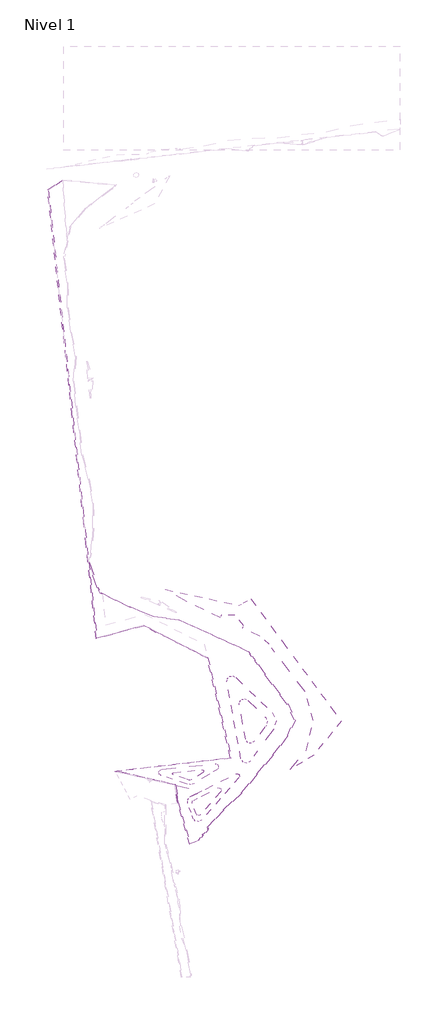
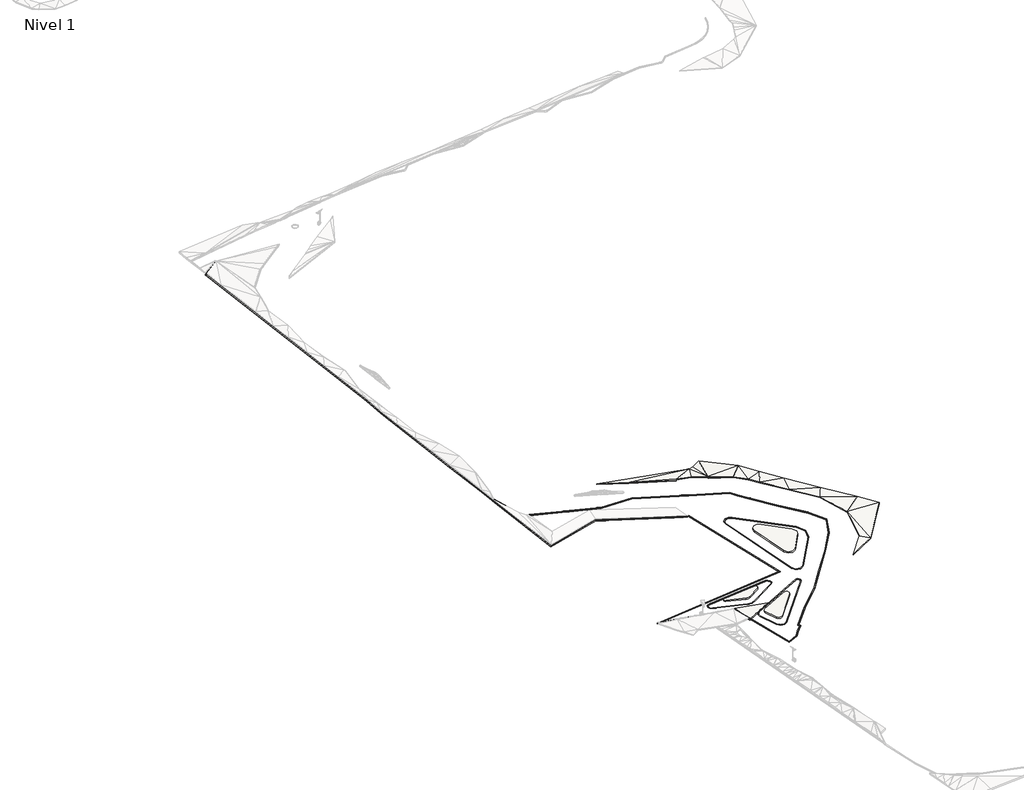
# One storey, part 12 of 45: 10 slabs.
"""IFC4 building model written with IfcOpenShell, lengths in millimetres."""

from ifc_helpers import new_model, si_unit, point, frame, frame_2d, origin, place, context, project, spatial, polyline, circle_curve, trimmed, segment, composite_curve, outline, extrude, faceted_brep, element, save
from ifc_brep_helpers import plane_surface, spline_surface, advanced_brep

model = new_model("IFC4")

# Units and contexts
model_context = context("Model", 3, world=origin())
ifc_project = project(units=[si_unit("LENGTHUNIT", "METRE", prefix="MILLI")], contexts=[model_context])

# Site, building, storey
site = spatial("IfcSite", under=ifc_project)
building = spatial("IfcBuilding", under=site)
storey = spatial("IfcBuildingStorey", under=building, Name="Nivel 1", Elevation=0.0)

# Slabs
placement = place(None, origin())
element("IfcSlab", 1, ObjectType="Tierra de Chacra (50cm)", at=placement, inside=storey, context=model_context, shape_type="SweptSolid", body=[
    extrude(outline(polyline([(-259692.577683, -353123.0198326), (-249094.4282619, -355565.7512298), (-258499.0161399, -360309.9056067), (-259692.577683, -353123.0198326)])), frame((0.0, 0.0, 3000.0), z_axis=(0.0, 0.0, 1.0), x_axis=(1.0, 0.0, 0.0)), (0.0, 0.0, 1.0), 500.0),
])
element("IfcSlab", 2, ObjectType="Tierra de Chacra (50cm)", at=placement, inside=storey, context=model_context, shape_type="SweptSolid", body=[
    extrude(outline(composite_curve([segment(polyline([(-248578.6758198, -348226.8111141), (-253111.6375509, -350972.4073295)]), True, "CONTINUOUS"), segment(trimmed(circle_curve(frame_2d((-253888.7478534, -349689.4032074)), 1499.9999999), [point((-253111.6375509, -350972.4073295))], [point((-254361.8763218, -351112.8319735))], False, "CARTESIAN"), True, "CONTINUOUS"), segment(polyline([(-254361.8763218, -351112.8319735), (-260630.1092416, -349029.3561358)]), True, "CONTINUOUS"), segment(trimmed(circle_curve(frame_2d((-260472.3997523, -348554.8798809)), 499.9999994), [point((-260630.1092416, -349029.3561358))], [point((-260525.1654587, -348057.6718966))], False, "CARTESIAN"), True, "CONTINUOUS"), segment(polyline([(-260525.1654587, -348057.6718966), (-249046.3795313, -346839.4970742)]), True, "CONTINUOUS"), segment(trimmed(circle_curve(frame_2d((-248967.2309715, -347585.3090523)), 750.0000008), [point((-249046.3795313, -346839.4970742))], [point((-248578.6758198, -348226.8111141))], False, "CARTESIAN"), True, "CONTINUOUS")], self_intersect=False)), frame((0.0, 0.0, 4000.0), z_axis=(0.0, 0.0, 1.0), x_axis=(1.0, 0.0, 0.0)), (0.0, 0.0, 1.0), 500.0),
])
element("IfcSlab", 3, ObjectType="Tierra de Chacra (50cm)", at=placement, inside=storey, context=model_context, shape_type="SweptSolid", body=[
    extrude(outline(composite_curve([segment(polyline([(-252384.0627277, -359241.2677938), (-242629.6442201, -354320.6409844)]), True, "CONTINUOUS"), segment(trimmed(circle_curve(frame_2d((-242179.2542069, -355213.4729041)), 1000.0000005), [point((-242629.6442201, -354320.6409844))], [point((-241426.8400401, -355872.1632127))], False, "CARTESIAN"), True, "CONTINUOUS"), segment(polyline([(-241426.8400401, -355872.1632127), (-249572.6059289, -365176.9754655)]), True, "CONTINUOUS"), segment(trimmed(circle_curve(frame_2d((-250325.0200961, -364518.2851566)), 1000.000001), [point((-249572.6059289, -365176.9754655))], [point((-251263.8190149, -364862.7508181))], False, "CARTESIAN"), True, "CONTINUOUS"), segment(polyline([(-251263.8190149, -364862.7508181), (-252872.4716331, -360478.5653754)]), True, "CONTINUOUS"), segment(trimmed(circle_curve(frame_2d((-251933.6727143, -360134.0997139)), 1000.0000009), [point((-252872.4716331, -360478.5653754))], [point((-252384.0627277, -359241.2677938))], False, "CARTESIAN"), True, "CONTINUOUS")], self_intersect=False)), frame((0.0, 0.0, 4000.0), z_axis=(0.0, 0.0, 1.0), x_axis=(1.0, 0.0, 0.0)), (0.0, 0.0, 1.0), 500.0),
])
element("IfcSlab", 4, ObjectType="Tierra de Chacra (50cm)", at=placement, inside=storey, context=model_context, shape_type="SweptSolid", body=[
    extrude(outline(composite_curve([segment(polyline([(-230498.6935688, -318672.2888117), (-223186.6458955, -325686.1894055)]), True, "CONTINUOUS"), segment(trimmed(circle_curve(frame_2d((-224917.2479002, -327490.3558878)), 2499.9999989), [point((-223186.6458955, -325686.1894055))], [point((-222903.158482, -328971.383845))], False, "CARTESIAN"), True, "CONTINUOUS"), segment(polyline([(-222903.158482, -328971.383845), (-227676.4396868, -335462.6962597)]), True, "CONTINUOUS"), segment(trimmed(circle_curve(frame_2d((-229287.7112218, -334277.8738937)), 1999.9999996), [point((-227676.4396868, -335462.6962597))], [point((-231254.9477111, -334638.4021085))], False, "CARTESIAN"), True, "CONTINUOUS"), segment(polyline([(-231254.9477111, -334638.4021085), (-233850.4116633, -320476.1502133)]), True, "CONTINUOUS"), segment(trimmed(circle_curve(frame_2d((-231883.1751734, -320115.6219984)), 2000.0000002), [point((-233850.4116633, -320476.1502133))], [point((-230498.6935688, -318672.2888117))], False, "CARTESIAN"), True, "CONTINUOUS")], self_intersect=False)), frame((0.0, 0.0, 4000.0), z_axis=(0.0, 0.0, 1.0), x_axis=(1.0, 0.0, 0.0)), (0.0, 0.0, 1.0), 500.0),
])
element("IfcSlab", 5, ObjectType="Tierra de Chacra (10cm)", at=placement, inside=storey, context=model_context, shape_type="SweptSolid", body=[
    extrude(outline(composite_curve([segment(polyline([(-254929.6304857, -352820.9464925), (-265578.8176414, -349281.3007257)]), True, "CONTINUOUS"), segment(trimmed(circle_curve(frame_2d((-265168.7729687, -348047.6624608)), 1300.0000008), [point((-265578.8176414, -349281.3007257))], [point((-265305.9638054, -346754.9216994))], False, "CARTESIAN"), True, "CONTINUOUS"), segment(polyline([(-265305.9638054, -346754.9216994), (-243662.8961745, -344458.0725204)]), True, "CONTINUOUS"), segment(trimmed(circle_curve(frame_2d((-243525.7053377, -345750.8132825)), 1300.0000015), [point((-243662.8961745, -344458.0725204))], [point((-242852.2097414, -346862.7501897))], False, "CARTESIAN"), True, "CONTINUOUS"), segment(polyline([(-242852.2097414, -346862.7501897), (-252179.1051901, -352512.0122756)]), True, "CONTINUOUS"), segment(trimmed(circle_curve(frame_2d((-253888.7478556, -349689.4032068)), 3299.9999999), [point((-252179.1051901, -352512.0122756))], [point((-254929.6304857, -352820.9464925))], False, "CARTESIAN"), True, "CONTINUOUS")], self_intersect=False), holes=[composite_curve([segment(trimmed(circle_curve(frame_2d((-265168.7729687, -348047.6624608)), 1000.0000008), [point((-265274.3043816, -347053.2464903))], [point((-265484.1919478, -348996.6149724))], True, "CARTESIAN"), True, "CONTINUOUS"), segment(polyline([(-265484.1919478, -348996.6149724), (-254835.0047921, -352536.2607392)]), True, "CONTINUOUS"), segment(trimmed(circle_curve(frame_2d((-253888.7478556, -349689.4032068)), 2999.9999999), [point((-254835.0047921, -352536.2607392))], [point((-252334.5272506, -352255.4114512))], True, "CARTESIAN"), True, "CONTINUOUS"), segment(polyline([(-252334.5272506, -352255.4114512), (-243007.6318019, -346606.1493652)]), True, "CONTINUOUS"), segment(trimmed(circle_curve(frame_2d((-243525.7053377, -345750.8132825)), 1000.0000015), [point((-243007.6318019, -346606.1493652))], [point((-243631.2367506, -344756.3973113))], True, "CARTESIAN"), True, "CONTINUOUS"), segment(polyline([(-243631.2367506, -344756.3973113), (-265274.3043816, -347053.2464903)]), True, "CONTINUOUS")], self_intersect=False)]), frame((0.0, 0.0, 3200.0), z_axis=(0.0, 0.0, 1.0), x_axis=(1.0, 0.0, 0.0)), (0.0, 0.0, 1.0), 100.0),
])
element("IfcSlab", 6, ObjectType="Tierra de Chacra (10cm)", at=placement, inside=storey, context=model_context, shape_type="SweptSolid", body=[
    extrude(outline(composite_curve([segment(polyline([(-233981.7539277, -350100.424637), (-249106.6452507, -367377.409517)]), True, "CONTINUOUS"), segment(trimmed(circle_curve(frame_2d((-250611.4735832, -366060.0289008)), 1999.9999995), [point((-249106.6452507, -367377.409517))], [point((-252489.0714186, -366748.9602229))], False, "CARTESIAN"), True, "CONTINUOUS"), segment(polyline([(-252489.0714186, -366748.9602229), (-254807.7516225, -360429.6816648)]), True, "CONTINUOUS"), segment(trimmed(circle_curve(frame_2d((-252930.1537854, -359740.7503421)), 2000.0000012), [point((-254807.7516225, -360429.6816648))], [point((-253830.9338122, -357955.0865024))], False, "CARTESIAN"), True, "CONTINUOUS"), segment(polyline([(-253830.9338122, -357955.0865024), (-235184.5581079, -348548.9024086)]), True, "CONTINUOUS"), segment(trimmed(circle_curve(frame_2d((-234734.1680945, -349441.7343283)), 1000.0000006), [point((-235184.5581079, -348548.9024086))], [point((-233981.7539277, -350100.424637))], False, "CARTESIAN"), True, "CONTINUOUS")], self_intersect=False), holes=[composite_curve([segment(trimmed(circle_curve(frame_2d((-250611.4735832, -366060.0289008)), 1699.9999995), [point((-252207.4317432, -366645.6205246))], [point((-249332.3695007, -367179.8024245))], True, "CARTESIAN"), True, "CONTINUOUS"), segment(polyline([(-249332.3695007, -367179.8024245), (-234207.4781776, -349902.8175445)]), True, "CONTINUOUS"), segment(trimmed(circle_curve(frame_2d((-234734.1680945, -349441.7343283)), 700.0000006), [point((-234207.4781776, -349902.8175445))], [point((-235049.4411039, -348816.7519843))], True, "CARTESIAN"), True, "CONTINUOUS"), segment(polyline([(-235049.4411039, -348816.7519843), (-253695.8168082, -358222.9360782)]), True, "CONTINUOUS"), segment(trimmed(circle_curve(frame_2d((-252930.1537854, -359740.7503421)), 1700.0000012), [point((-253695.8168082, -358222.9360782))], [point((-254526.111947, -360326.3419664))], True, "CARTESIAN"), True, "CONTINUOUS"), segment(polyline([(-254526.111947, -360326.3419664), (-252207.4317432, -366645.6205246)]), True, "CONTINUOUS")], self_intersect=False)]), frame((0.0, 0.0, 3200.0), z_axis=(0.0, 0.0, 1.0), x_axis=(1.0, 0.0, 0.0)), (0.0, 0.0, 1.0), 100.0),
])
element("IfcSlab", 7, ObjectType="Tierra de Chacra (10cm)", at=placement, inside=storey, context=model_context, shape_type="SweptSolid", body=[
    extrude(outline(composite_curve([segment(polyline([(-219880.7574034, -330431.5952869), (-229407.6767067, -343387.5069313)]), True, "CONTINUOUS"), segment(trimmed(circle_curve(frame_2d((-231099.5118191, -342143.4434465)), 2100.0000004), [point((-229407.6767067, -343387.5069313))], [point((-233165.1101336, -342521.9980722))], False, "CARTESIAN"), True, "CONTINUOUS"), segment(polyline([(-233165.1101336, -342521.9980722), (-238881.9202386, -311327.9972224)]), True, "CONTINUOUS"), segment(trimmed(circle_curve(frame_2d((-236816.3219238, -310949.4425966)), 2100.0000007), [point((-238881.9202386, -311327.9972224))], [point((-235362.6162389, -309433.9427501))], False, "CARTESIAN"), True, "CONTINUOUS"), segment(polyline([(-235362.6162389, -309433.9427501), (-220459.0717279, -323729.7986233)]), True, "CONTINUOUS"), segment(trimmed(circle_curve(frame_2d((-223989.4998205, -327410.2982512)), 5100.0000027), [point((-220459.0717279, -323729.7986233))], [point((-219880.7574034, -330431.5952869))], False, "CARTESIAN"), True, "CONTINUOUS")], self_intersect=False), holes=[composite_curve([segment(trimmed(circle_curve(frame_2d((-231099.5118191, -342143.4434465)), 1800.0000004), [point((-232870.0246601, -342467.91884))], [point((-229649.367437, -343209.7835764))], True, "CARTESIAN"), True, "CONTINUOUS"), segment(polyline([(-229649.367437, -343209.7835764), (-220122.4481337, -330253.8719319)]), True, "CONTINUOUS"), segment(trimmed(circle_curve(frame_2d((-223989.4998205, -327410.2982512)), 4800.0000027), [point((-220122.4481337, -330253.8719319))], [point((-220666.7439685, -323946.2986013))], True, "CARTESIAN"), True, "CONTINUOUS"), segment(polyline([(-220666.7439685, -323946.2986013), (-235570.2884795, -309650.4427281)]), True, "CONTINUOUS"), segment(trimmed(circle_curve(frame_2d((-236816.3219238, -310949.4425966)), 1800.0000007), [point((-235570.2884795, -309650.4427281))], [point((-238586.8347652, -311273.9179901))], True, "CARTESIAN"), True, "CONTINUOUS"), segment(polyline([(-238586.8347652, -311273.9179901), (-232870.0246601, -342467.91884)]), True, "CONTINUOUS")], self_intersect=False)]), frame((0.0, 0.0, 3200.0), z_axis=(0.0, 0.0, 1.0), x_axis=(1.0, 0.0, 0.0)), (0.0, 0.0, 1.0), 100.0),
])
element("IfcSlab", 8, ObjectType="Tierra de Chacra (20cm)", at=placement, inside=storey, context=model_context, shape_type="Brep", body=[
    faceted_brep([(-259746.1512588, -352802.8063396, 3000.0), (-259746.1512588, -352802.8063396, 3200.0), (-259692.577683, -353123.0198326, 3200.0), (-259692.577683, -353123.0198326, 3000.0), (-258499.0161403, -360309.9056044, 3778.4), (-258499.0161403, -360309.9056044, 3578.4), (-253657.0191389, -376813.5731475, 3294.0), (-253657.0191389, -376813.5731475, 3094.0), (-250208.8766051, -375269.3430892, 3362.5), (-250208.8766051, -375269.3430892, 3162.5), (-248782.9831902, -373365.9486966, 3331.1), (-248782.9831902, -373365.9486966, 3131.1), (-246651.9191166, -371125.6633544, 3415.8), (-246651.9191166, -371125.6633544, 3215.8), (-246802.1268005, -370335.2235145, 3209.4), (-246802.1268005, -370335.2235145, 3009.4), (-240354.1564966, -363153.9933159, 3367.7), (-240354.1564966, -363153.9933159, 3167.7), (-232965.2577297, -356282.0853069, 3837.6), (-232965.2577297, -356282.0853069, 3637.6), (-226714.7266074, -348497.8310062, 3820.7), (-226714.7266074, -348497.8310062, 3620.7), (-220206.5208136, -340908.4377078, 4286.4), (-220206.5208136, -340908.4377078, 4086.4), (-214362.1469771, -333010.3056314, 4508.2), (-214362.1469771, -333010.3056314, 4308.2), (-214266.8789963, -332935.6770266, 4528.1), (-214266.8789963, -332935.6770266, 4328.1), (-211477.3616369, -326738.0981823, 4717.3), (-211477.3616369, -326738.0981823, 4517.3), (-214293.8176319, -320568.5011429, 4435.2), (-214293.8176319, -320568.5011429, 4235.2), (-220499.7755484, -312418.6849123, 4383.0), (-220499.7755484, -312418.6849123, 4183.0), (-226447.564629, -304374.0181582, 4380.9), (-226447.564629, -304374.0181582, 4180.9), (-228745.8067017, -301153.9581785, 4402.2), (-228745.8067017, -301153.9581785, 4202.2), (-230347.6284549, -299026.6455088, 4514.0), (-230347.6284549, -299026.6455088, 4314.0), (-242008.4949011, -293712.977066, 4535.4), (-242008.4949011, -293712.977066, 4335.4), (-258313.2475485, -286283.1647091, 4565.2), (-258313.2475485, -286283.1647091, 4365.2), (-268621.0778581, -284921.3708812, 3750.0), (-268621.0778581, -284921.3708812, 3550.0), (-277925.6919369, -281145.5380158, 3446.0), (-277925.6919369, -281145.5380158, 3246.0), (-278554.7196336, -280947.4748405, 3399.7953606), (-278554.7196336, -280947.4748405, 3199.7953606), (-289423.7156436, -275642.0907003, 2580.0), (-289423.7156436, -275642.0907003, 2380.0), (-290159.2414777, -275283.0651658, 2573.6411786), (-290159.2414777, -275283.0651658, 2373.6411786), (-291491.3566625, -273118.4389996, 2470.7), (-291491.3566625, -273118.4389996, 2270.7), (-294891.1329312, -262791.0925905, 2700.0), (-294891.1329312, -262791.0925905, 2500.0), (-294610.7649881, -262683.3469266, 2700.0), (-294610.7649881, -262683.3469266, 2500.0), (-291217.409206, -272991.1901145, 2571.1), (-291217.409206, -272991.1901145, 2371.1), (-289949.3872363, -275051.6677419, 2540.6), (-289949.3872363, -275051.6677419, 2340.6), (-289292.1197357, -275372.4937474, 2595.3), (-278423.1237256, -280677.8778875, 3500.4046394), (-278423.1237256, -280677.8778875, 3300.4046394), (-289292.1197357, -275372.4937474, 2395.3), (-277812.8856781, -280867.5546566, 3523.8), (-277812.8856781, -280867.5546566, 3323.8), (-268543.7871981, -284628.9752139, 3608.3), (-268543.7871981, -284628.9752139, 3408.3), (-258229.5802029, -285991.611482, 4565.2), (-258229.5802029, -285991.611482, 4365.2), (-241884.0965153, -293439.9843155, 4535.4), (-230153.8403289, -298785.2725419, 4514.0), (-230153.8403289, -298785.2725419, 4314.0), (-241884.0965153, -293439.9843155, 4335.4), (-228503.8465465, -300976.5604748, 4402.2), (-228503.8465465, -300976.5604748, 4202.2), (-226204.841247, -304197.6898102, 4380.9), (-226204.841247, -304197.6898102, 4180.9), (-220259.8105631, -312238.625701, 4383.0), (-220259.8105631, -312238.625701, 4183.0), (-214200.8315574, -320195.4256198, 4432.4), (-214200.8315574, -320195.4256198, 4232.4), (-214044.2912502, -320392.6982576, 4435.2), (-214044.2912502, -320392.6982576, 4235.2), (-211198.3172974, -326626.9559575, 4709.1), (-211198.3172974, -326626.9559575, 4509.1), (-211175.9375507, -326799.3374182, 4717.3), (-211175.9375507, -326799.3374182, 4517.3), (-214023.6637944, -333126.2411973, 4528.1), (-214023.6637944, -333126.2411973, 4328.1), (-214145.1594699, -333221.4153869, 4508.2), (-214145.1594699, -333221.4153869, 4308.2), (-219971.7741245, -341095.5475675, 4286.4), (-219971.7741245, -341095.5475675, 4086.4), (-226483.8395708, -348689.4417102, 3820.7), (-226483.8395708, -348689.4417102, 3620.7), (-232744.9862324, -356486.9163366, 3837.6), (-232744.9862324, -356486.9163366, 3637.6), (-240139.9584034, -363364.4728022, 3367.7), (-240139.9584034, -363364.4728022, 3167.7), (-246479.6720821, -370425.1354874, 3209.4), (-246479.6720821, -370425.1354874, 3009.4), (-246328.4540458, -371220.8921178, 3415.8), (-246328.4540458, -371220.8921178, 3215.8), (-248553.4600246, -373559.9340745, 3331.1), (-248553.4600246, -373559.9340745, 3131.1), (-250015.355237, -375511.3864908, 3362.5), (-250015.355237, -375511.3864908, 3162.5), (-253848.115409, -377227.8652633, 3294.0), (-253848.115409, -377227.8652633, 3094.0), (-258771.3549499, -360447.2872096, 3778.4), (-258771.3549499, -360447.2872096, 3578.4), (-260008.9471493, -353050.100909, 3200.0), (-260008.9471493, -353050.100909, 3000.0), (-284369.7433372, -347435.263894, 3082.0), (-284369.7433372, -347435.263894, 2882.0), (-282609.4646829, -347533.1190316, 3200.0), (-282609.4646829, -347533.1190316, 3000.0)], [[[0, 1, 2, 3]], [[3, 2, 4, 5]], [[5, 4, 6, 7]], [[7, 6, 8, 9]], [[9, 8, 10, 11]], [[11, 10, 12, 13]], [[13, 12, 14, 15]], [[15, 14, 16, 17]], [[17, 16, 18, 19]], [[19, 18, 20, 21]], [[21, 20, 22, 23]], [[23, 22, 24, 25]], [[25, 24, 26, 27]], [[27, 26, 28, 29]], [[29, 28, 30, 31]], [[31, 30, 32, 33]], [[33, 32, 34, 35]], [[35, 34, 36, 37]], [[37, 36, 38, 39]], [[39, 38, 40, 41]], [[41, 40, 42, 43]], [[43, 42, 44, 45]], [[45, 44, 46, 47]], [[47, 46, 48, 49]], [[49, 48, 50, 51]], [[51, 50, 52, 53]], [[53, 52, 54, 55]], [[55, 54, 56, 57]], [[57, 56, 58, 59]], [[59, 58, 60, 61]], [[61, 60, 62, 63]], [[63, 62, 64, 65, 66, 67]], [[66, 65, 68, 69]], [[69, 68, 70, 71]], [[71, 70, 72, 73]], [[73, 72, 74, 75, 76, 77]], [[76, 75, 78, 79]], [[79, 78, 80, 81]], [[81, 80, 82, 83]], [[83, 82, 84, 85]], [[85, 84, 86, 87]], [[87, 86, 88, 89]], [[89, 88, 90, 91]], [[91, 90, 92, 93]], [[93, 92, 94, 95]], [[95, 94, 96, 97]], [[97, 96, 98, 99]], [[99, 98, 100, 101]], [[101, 100, 102, 103]], [[103, 102, 104, 105]], [[105, 104, 106, 107]], [[107, 106, 108, 109]], [[109, 108, 110, 111]], [[111, 110, 112, 113]], [[113, 112, 114, 115]], [[115, 114, 116, 117]], [[117, 116, 118, 119]], [[119, 118, 120, 121]], [[121, 120, 1, 0]], [[120, 118, 116]], [[121, 117, 119]], [[104, 102, 16]], [[106, 104, 12]], [[108, 106, 12]], [[105, 17, 103]], [[107, 13, 105]], [[109, 13, 107]], [[102, 100, 18]], [[104, 16, 14]], [[104, 14, 12]], [[103, 19, 101]], [[105, 15, 17]], [[105, 13, 15]], [[100, 98, 18]], [[102, 18, 16]], [[101, 19, 99]], [[103, 17, 19]], [[98, 96, 22]], [[98, 20, 18]], [[99, 23, 97]], [[99, 19, 21]], [[96, 94, 22]], [[98, 22, 20]], [[97, 23, 95]], [[99, 21, 23]], [[94, 92, 26]], [[95, 27, 93]], [[92, 90, 26]], [[94, 26, 24]], [[94, 24, 22]], [[93, 27, 91]], [[95, 25, 27]], [[95, 23, 25]], [[90, 88, 28]], [[91, 29, 89]], [[120, 116, 2, 1]], [[116, 114, 2]], [[121, 0, 3, 117]], [[117, 3, 115]], [[114, 4, 2]], [[114, 112, 6]], [[115, 3, 5]], [[115, 7, 113]], [[114, 6, 4]], [[112, 110, 6]], [[115, 5, 7]], [[113, 7, 111]], [[110, 108, 8]], [[111, 9, 109]], [[110, 8, 6]], [[108, 12, 10]], [[111, 7, 9]], [[109, 11, 13]], [[108, 10, 8]], [[109, 9, 11]], [[90, 28, 26]], [[91, 27, 29]], [[88, 86, 30]], [[89, 31, 87]], [[86, 84, 30]], [[88, 30, 28]], [[87, 31, 85]], [[89, 29, 31]], [[84, 82, 32]], [[85, 33, 83]], [[84, 32, 30]], [[85, 31, 33]], [[82, 80, 32]], [[83, 33, 81]], [[80, 78, 36]], [[81, 37, 79]], [[80, 34, 32]], [[81, 33, 35]], [[78, 75, 38]], [[80, 36, 34]], [[79, 39, 76]], [[81, 35, 37]], [[78, 38, 36]], [[79, 37, 39]], [[72, 70, 42]], [[73, 43, 71]], [[72, 42, 74]], [[42, 40, 74]], [[40, 38, 74]], [[75, 74, 38]], [[73, 77, 43]], [[43, 77, 41]], [[41, 77, 39]], [[76, 39, 77]], [[70, 68, 46]], [[71, 47, 69]], [[70, 44, 42]], [[71, 43, 45]], [[68, 65, 46]], [[70, 46, 44]], [[69, 47, 66]], [[71, 45, 47]], [[65, 48, 46]], [[66, 47, 49]], [[65, 50, 48]], [[66, 49, 51]], [[62, 60, 54]], [[63, 55, 61]], [[62, 52, 50]], [[63, 51, 53]], [[62, 54, 52]], [[63, 53, 55]], [[60, 58, 56]], [[61, 57, 59]], [[60, 56, 54]], [[61, 55, 57]], [[62, 50, 64]], [[65, 64, 50]], [[63, 67, 51]], [[66, 51, 67]]]),
])
element("IfcSlab", 9, ObjectType="Tierra de Chacra (20cm)", at=placement, inside=storey, context=model_context, shape_type="AdvancedBrep", body=[
    advanced_brep(
    [(-284369.7433336, -347435.2638942, 2882.0), (-284369.7433336, -347435.2638942, 3082.0), (-237423.5279953, -341990.4769374, 3200.0), (-237423.5279953, -341990.4769374, 3000.0), (-246819.2067484, -301717.9890568, 3200.0), (-246819.2067484, -301717.9890568, 3000.0), (-272626.1158861, -288655.0708706, 2700.0), (-272626.1158861, -288655.0708706, 2500.0), (-291830.3998296, -293796.536123, 2500.0), (-291830.3998296, -293796.536123, 2300.0), (-295189.3841817, -262823.4374745, 2501.5), (-295206.1017953, -262669.2848376, 2500.0), (-295826.5759596, -256947.910313, 2500.0), (-297636.4115024, -240259.4685323, 2500.0), (-301548.2943398, -204188.1087627, 2500.0), (-302369.2965748, -196617.6706332, 3000.0), (-311569.6170026, -111781.7790855, 3000.0), (-311569.6170026, -111781.7790855, 2800.0), (-302369.2965748, -196617.6706332, 2800.0), (-301548.2943398, -204188.1087627, 2300.0), (-297636.4115024, -240259.4685323, 2300.0), (-295826.5759596, -256947.910313, 2300.0), (-295206.1017953, -262669.2848376, 2300.0), (-295189.3841817, -262823.4374745, 2301.5), (-305496.8398123, -107559.7208139, 3229.1235718), (-305496.8398123, -107559.7208139, 3029.1235718), (-305462.4622764, -107864.1947353, 3245.0764282), (-305462.4622764, -107864.1947353, 3045.0764282), (-305459.9050286, -107899.422368, 3245.8087454), (-305459.9050286, -107899.422368, 3045.8087454), (-311252.1681154, -111926.4550596, 3000.0), (-311252.1681154, -111926.4550596, 2800.0), (-302071.0453243, -196585.3257491, 3000.0), (-301250.0430893, -204155.7638787, 2500.0), (-297338.1602518, -240227.1236483, 2500.0), (-295528.3247091, -256915.565429, 2500.0), (-294907.8505448, -262636.9399536, 2500.0), (-294907.8505448, -262636.9399536, 2300.0), (-295528.3247091, -256915.565429, 2300.0), (-297338.1602518, -240227.1236483, 2300.0), (-301250.0430893, -204155.7638787, 2300.0), (-302071.0453243, -196585.3257491, 2800.0), (-294891.1329312, -262791.0925905, 2498.5), (-294891.1329312, -262791.0925905, 2298.5), (-291569.8850436, -293416.2243786, 2500.0), (-291569.8850436, -293416.2243786, 2300.0), (-272592.9362522, -288335.6224088, 2700.0), (-272592.9362522, -288335.6224088, 2500.0), (-246888.5866031, -301346.6271239, 2700.0), (-246888.5866031, -301346.6271239, 2500.0), (-246558.8506443, -301513.5325765, 3200.0), (-246558.8506443, -301513.5325765, 3000.0), (-237054.9838592, -342249.7444036, 3200.0), (-237054.9838592, -342249.7444036, 3000.0), (-282609.4646829, -347533.1190316, 3200.0), (-282609.4646829, -347533.1190316, 3000.0)],
    [
        (0, 1),
        (1, 2),
        (2, 3),
        (3, 0),
        (2, 4),
        (4, 5),
        (5, 3),
        (4, 6),
        (6, 7),
        (7, 5),
        (6, 8),
        (8, 9),
        (9, 7),
        (8, 10),
        (10, 11),
        (11, 12),
        (12, 13),
        (13, 14),
        (14, 15),
        (15, 16),
        (16, 17),
        (17, 18),
        (18, 19),
        (19, 20),
        (20, 21),
        (21, 22),
        (22, 23),
        (23, 9),
        (16, 24),
        (24, 25),
        (25, 17),
        (24, 26),
        (26, 27),
        (27, 25),
        (26, 28),
        (28, 29),
        (29, 27),
        (28, 30),
        (30, 31),
        (31, 29),
        (30, 32),
        (32, 33),
        (33, 34),
        (34, 35),
        (35, 36),
        (36, 37),
        (37, 38),
        (38, 39),
        (39, 40),
        (40, 41),
        (41, 31),
        (36, 42),
        (42, 43),
        (43, 37),
        (42, 44),
        (44, 45),
        (45, 43),
        (44, 46),
        (46, 47),
        (47, 45),
        (46, 48),
        (48, 49),
        (49, 47),
        (48, 50),
        (50, 51),
        (51, 49),
        (50, 52),
        (52, 53),
        (53, 51),
        (52, 54),
        (54, 55),
        (55, 53),
        (54, 1),
        (0, 55),
        (50, 4),
        (2, 54),
        (55, 3),
        (5, 51),
        (48, 4),
        (5, 49),
        (44, 6),
        (6, 46),
        (6, 48),
        (47, 7),
        (7, 45),
        (49, 7),
        (42, 10),
        (10, 44),
        (45, 23),
        (23, 43),
        (44, 8),
        (9, 45),
        (36, 11),
        (22, 37),
        (26, 30),
        (31, 27),
        (30, 16),
        (15, 32),
        (41, 18),
        (17, 31),
        (35, 12),
        (21, 38),
        (34, 13),
        (20, 39),
        (30, 24),
        (25, 31),
        (33, 14),
        (19, 40),
    ],
    [
        plane_surface(frame((-284369.7433336, -347435.2638942, 4050.0), z_axis=(-0.1152070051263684, 0.993341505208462, 0.0), x_axis=(0.0, 0.0, 1.0))),
        plane_surface(frame((-237423.5279953, -341990.4769374, 4050.0), z_axis=(-0.9738478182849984, -0.22720129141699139, 0.0), x_axis=(0.0, 0.0, 1.0))),
        plane_surface(frame((-246819.2067484, -301717.9890568, 4050.0), z_axis=(-0.4516186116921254, -0.8922110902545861, 0.0), x_axis=(0.0, 0.0, 1.0))),
        plane_surface(frame((-272626.1158861, -288655.0708706, 4050.0), z_axis=(0.2586169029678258, -0.965979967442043, 0.0), x_axis=(0.0, 0.0, 1.0))),
        plane_surface(frame((-291830.3998296, -293796.536123, 4050.0), z_axis=(-0.9941708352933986, -0.10781628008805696, 0.0), x_axis=(0.0, 0.0, 1.0))),
        plane_surface(frame((-311569.6170026, -111781.7790855, 4050.0), z_axis=(-0.5708382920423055, 0.8210625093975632, 0.0), x_axis=(0.0, 0.0, 1.0))),
        plane_surface(frame((-305496.8398123, -107559.7208139, 4050.0), z_axis=(0.9936861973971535, 0.1121951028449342, 0.0), x_axis=(0.0, 0.0, 1.0))),
        plane_surface(frame((-305462.4622764, -107864.1947353, 4050.0), z_axis=(0.9973755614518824, 0.07240158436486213, 0.0), x_axis=(0.0, 0.0, 1.0))),
        plane_surface(frame((-305459.9050286, -107899.422368, 4050.0), z_axis=(0.5708382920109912, -0.8210625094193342, 0.0), x_axis=(0.0, 0.0, 1.0))),
        plane_surface(frame((-311252.1681154, -111926.4550596, 4050.0), z_axis=(0.9941708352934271, 0.1078162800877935, 0.0), x_axis=(0.0, 0.0, 1.0))),
        plane_surface(frame((-294907.8505448, -262636.9399536, 4050.0), z_axis=(0.9941708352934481, 0.10781628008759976, 0.0), x_axis=(0.0, 0.0, 1.0))),
        plane_surface(frame((-294891.1329312, -262791.0925905, 4050.0), z_axis=(0.9941708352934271, 0.10781628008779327, 0.0), x_axis=(0.0, 0.0, 1.0))),
        plane_surface(frame((-291569.8850436, -293416.2243786, 4050.0), z_axis=(-0.2586169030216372, 0.9659799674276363, 0.0), x_axis=(0.0, 0.0, 1.0))),
        plane_surface(frame((-272592.9362522, -288335.6224088, 4050.0), z_axis=(0.4516186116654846, 0.8922110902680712, 0.0), x_axis=(0.0, 0.0, 1.0))),
        plane_surface(frame((-246888.5866031, -301346.6271239, 4050.0), z_axis=(0.45161861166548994, 0.8922110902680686, 0.0), x_axis=(0.0, 0.0, 1.0))),
        plane_surface(frame((-246558.8506443, -301513.5325765, 4050.0), z_axis=(0.9738478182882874, 0.2272012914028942, 0.0), x_axis=(0.0, 0.0, 1.0))),
        plane_surface(frame((-237054.9838592, -342249.7444036, 4050.0), z_axis=(0.1152070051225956, -0.9933415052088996, 0.0), x_axis=(0.0, 0.0, 1.0))),
        plane_surface(frame((-282609.4646829, -347533.1190316, 4050.0), z_axis=(-0.0555050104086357, -0.9984584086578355, 0.0), x_axis=(0.0, 0.0, 1.0))),
        plane_surface(frame((-250093.206786, -327000.9724012, 3200.0), z_axis=(0.0, 0.0, 1.0000000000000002), x_axis=(0.9933415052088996, 0.1152070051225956, 0.0))),
        plane_surface(frame((-250093.206786, -327000.9724012, 3000.0), z_axis=(0.0, 0.0, -1.0000000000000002), x_axis=(0.9933415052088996, 0.1152070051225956, 0.0))),
        plane_surface(frame((-268134.2453373, -345652.9532877, 3160.6666667), z_axis=(-0.04313676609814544, 0.35166896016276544, 0.9351300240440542), x_axis=(0.9925607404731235, 0.12175046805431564, 0.0))),
        plane_surface(frame((-268134.2453373, -345652.9532877, 2960.6666667), z_axis=(0.04313676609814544, -0.35166896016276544, -0.9351300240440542), x_axis=(0.9925607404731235, 0.12175046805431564, 0.0))),
        plane_surface(frame((-246755.5479986, -301526.0495857, 3033.3333333), z_axis=(-0.5131371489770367, 0.65343191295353, 0.5565222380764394), x_axis=(-0.5303283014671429, 0.26844110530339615, -0.8041711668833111))),
        plane_surface(frame((-246755.5479986, -301526.0495857, 2833.3333333), z_axis=(0.5131371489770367, -0.65343191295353, -0.5565222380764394), x_axis=(-0.5303283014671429, 0.26844110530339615, -0.8041711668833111))),
        plane_surface(frame((-278929.6457273, -290135.6392193, 2633.3333333), z_axis=(-0.010839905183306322, 0.0011258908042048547, 0.9999406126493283), x_axis=(-0.9659299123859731, -0.25860350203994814, -0.010180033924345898))),
        plane_surface(frame((-264035.8795805, -292779.1068011, 2700.0), z_axis=(0.0, 0.0, 1.0), x_axis=(-0.8922110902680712, 0.4516186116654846, 0.0))),
        plane_surface(frame((-255444.6364125, -297239.8956837, 2866.6666667), z_axis=(0.3784420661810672, 0.7674522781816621, 0.5174926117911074), x_axis=(-0.8968836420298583, 0.4422665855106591, 0.0))),
        plane_surface(frame((-278929.6457273, -290135.6392193, 2433.3333333), z_axis=(0.010839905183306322, -0.0011258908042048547, -0.9999406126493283), x_axis=(-0.9659299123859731, -0.25860350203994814, -0.010180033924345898))),
        plane_surface(frame((-264035.8795805, -292779.1068011, 2500.0), z_axis=(0.0, 0.0, -1.0), x_axis=(-0.8922110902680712, 0.4516186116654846, 0.0))),
        plane_surface(frame((-255444.6364125, -297239.8956837, 2666.6666667), z_axis=(-0.3784420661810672, -0.7674522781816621, -0.5174926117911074), x_axis=(-0.8968836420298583, 0.4422665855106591, 0.0))),
        plane_surface(frame((-293883.4673855, -273010.2514812, 2500.0), z_axis=(0.009935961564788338, 0.0011265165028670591, 0.9999500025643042), x_axis=(-0.10781627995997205, 0.9941708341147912, -4.869387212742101e-05))),
        plane_surface(frame((-293883.4673855, -273010.2514812, 2300.0), z_axis=(-0.009935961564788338, -0.0011265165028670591, -0.9999500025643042), x_axis=(-0.10781627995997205, 0.9941708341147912, -4.869387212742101e-05))),
        plane_surface(frame((-285342.1335864, -291955.9437907, 2566.6666667), z_axis=(-0.012751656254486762, 0.008734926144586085, 0.9998805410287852), x_axis=(-0.5651293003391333, -0.8250023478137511, 0.0))),
        plane_surface(frame((-285342.1335864, -291955.9437907, 2366.6666667), z_axis=(0.012751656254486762, -0.008734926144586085, -0.9998805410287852), x_axis=(-0.5651293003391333, -0.8250023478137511, 0.0))),
        spline_surface(1, 1, [[(-294907.8505448, -262636.9399536, 2500.0), (-294891.1329312, -262791.0925905, 2498.5)], [(-295206.1017953, -262669.2848376, 2500.0), (-295189.3841817, -262823.4374745, 2501.5)]], [2, 2], [2, 2], [0.0, 1.0], [0.0, 1.0]),
        spline_surface(1, 1, [[(-294907.8505448, -262636.9399536, 2300.0), (-295206.1017953, -262669.2848376, 2300.0)], [(-294891.1329312, -262791.0925905, 2298.5), (-295189.3841817, -262823.4374745, 2301.5)]], [2, 2], [2, 2], [0.0, 1.0], [0.0, 1.0]),
        plane_surface(frame((-307391.5118068, -109230.0240543, 3163.6283912), z_axis=(-0.054070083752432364, 0.016829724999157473, 0.998395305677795), x_axis=(0.8205645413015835, 0.5704920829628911, 0.03482264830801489))),
        plane_surface(frame((-307391.5118068, -109230.0240543, 2963.6283912), z_axis=(0.054070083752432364, -0.016829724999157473, -0.998395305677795), x_axis=(0.8205645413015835, 0.5704920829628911, 0.03482264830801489))),
        plane_surface(frame((-306815.5317543, -154227.8076318, 3000.0), z_axis=(0.0, 0.0, 1.0000000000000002), x_axis=(-0.9099545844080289, 0.4147079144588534, 0.0))),
        plane_surface(frame((-292863.2230183, -283345.3993254, 2500.5), z_axis=(6.103600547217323e-05, -4.1809862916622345e-05, 0.9999999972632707), x_axis=(-0.11749271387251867, 0.993073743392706, 4.869156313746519e-05))),
        plane_surface(frame((-306815.5317543, -154227.8076318, 2800.0), z_axis=(0.0, 0.0, -1.0000000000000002), x_axis=(-0.9099545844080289, 0.4147079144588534, 0.0))),
        plane_surface(frame((-292863.2230183, -283345.3993254, 2300.5), z_axis=(-6.103600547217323e-05, 4.1809862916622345e-05, -0.9999999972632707), x_axis=(-0.11749271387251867, 0.993073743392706, 4.869156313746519e-05))),
        plane_surface(frame((-295367.2132522, -259792.4251333, 2500.0), z_axis=(0.0, 0.0, 1.0), x_axis=(-0.1078162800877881, 0.9941708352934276, 0.0))),
        plane_surface(frame((-295367.2132522, -259792.4251333, 2300.0), z_axis=(0.0, 0.0, -1.0), x_axis=(-0.1078162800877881, 0.9941708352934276, 0.0))),
        plane_surface(frame((-296582.3681057, -248587.5169807, 2500.0), z_axis=(0.0, 0.0, 1.0000000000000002), x_axis=(-0.10781628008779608, 0.9941708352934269, 0.0))),
        plane_surface(frame((-296582.3681057, -248587.5169807, 2300.0), z_axis=(0.0, 0.0, -1.0000000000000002), x_axis=(-0.10781628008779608, 0.9941708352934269, 0.0))),
        plane_surface(frame((-309439.5416434, -110422.651653, 3076.3745239), z_axis=(-0.014929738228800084, -0.03275892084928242, 0.9993517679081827), x_axis=(0.7962493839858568, 0.6041374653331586, 0.03169923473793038))),
        plane_surface(frame((-307403.8234014, -109116.790203, 3158.0666667), z_axis=(-0.07301932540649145, 0.04395970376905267, 0.9963612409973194), x_axis=(0.8181116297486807, 0.5740157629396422, 0.03463040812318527))),
        plane_surface(frame((-309439.5416434, -110422.651653, 2876.3745239), z_axis=(0.014929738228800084, 0.03275892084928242, -0.9993517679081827), x_axis=(0.7962493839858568, 0.6041374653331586, 0.03169923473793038))),
        plane_surface(frame((-307403.8234014, -109116.790203, 2958.0666667), z_axis=(0.07301932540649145, -0.04395970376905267, -0.9963612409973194), x_axis=(0.8181116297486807, 0.5740157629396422, 0.03463040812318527))),
        plane_surface(frame((-299443.2272958, -222207.6162055, 2500.0), z_axis=(0.0, 0.0, 1.0), x_axis=(-0.10781628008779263, 0.9941708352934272, 0.0))),
        plane_surface(frame((-299443.2272958, -222207.6162055, 2300.0), z_axis=(0.0, 0.0, -1.0), x_axis=(-0.10781628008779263, 0.9941708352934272, 0.0))),
        plane_surface(frame((-301809.669832, -200386.7172559, 2750.0), z_axis=(0.007064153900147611, -0.0651383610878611, 0.9978512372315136), x_axis=(-0.10758460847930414, 0.9920345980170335, 0.06552028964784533))),
        plane_surface(frame((-301809.669832, -200386.7172559, 2550.0), z_axis=(-0.007064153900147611, 0.0651383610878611, -0.9978512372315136), x_axis=(-0.10758460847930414, 0.9920345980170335, 0.06552028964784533))),
    ],
    [
        (0, [[1, 2, 3, 4]]),
        (1, [[-3, 5, 6, 7]]),
        (2, [[-6, 8, 9, 10]]),
        (3, [[-9, 11, 12, 13]]),
        (4, [[-12, 14, 15, 16, 17, 18, 19, 20, 21, 22, 23, 24, 25, 26, 27, 28]]),
        (5, [[-21, 29, 30, 31]]),
        (6, [[-30, 32, 33, 34]]),
        (7, [[-33, 35, 36, 37]]),
        (8, [[-36, 38, 39, 40]]),
        (9, [[-39, 41, 42, 43, 44, 45, 46, 47, 48, 49, 50, 51]]),
        (10, [[-46, 52, 53, 54]]),
        (11, [[-53, 55, 56, 57]]),
        (12, [[-56, 58, 59, 60]]),
        (13, [[-59, 61, 62, 63]]),
        (14, [[-62, 64, 65, 66]]),
        (15, [[-65, 67, 68, 69]]),
        (16, [[-68, 70, 71, 72]]),
        (17, [[-71, 73, -1, 74]]),
        (18, [[-70, -67, 75, -5, 76]]),
        (19, [[77, -7, 78, -69, -72]]),
        (20, [[-76, -2, -73]]),
        (21, [[-74, -4, -77]]),
        (22, [[-64, 79, -75]]),
        (23, [[-78, 80, -66]]),
        (24, [[-58, 81, 82]]),
        (25, [[-61, -82, 83]]),
        (26, [[-83, -8, -79]]),
        (27, [[84, 85, -60]]),
        (28, [[86, -84, -63]]),
        (29, [[-80, -10, -86]]),
        (30, [[-55, 87, 88]]),
        (31, [[89, 90, -57]]),
        (32, [[91, -11, -81]]),
        (33, [[-85, -13, 92]]),
        (34, [[-52, 93, -15, -87]]),
        (35, [[-90, -27, 94, -54]]),
        (36, [[-38, -35, 95]]),
        (37, [[96, -37, -40]]),
        (38, [[97, -20, 98, -41]]),
        (39, [[-88, -14, -91]]),
        (40, [[-51, 99, -22, 100]]),
        (41, [[-92, -28, -89]]),
        (42, [[-45, 101, -16, -93]]),
        (43, [[-94, -26, 102, -47]]),
        (44, [[-44, 103, -17, -101]]),
        (45, [[-102, -25, 104, -48]]),
        (46, [[105, -29, -97]]),
        (47, [[-95, -32, -105]]),
        (48, [[-100, -31, 106]]),
        (49, [[-106, -34, -96]]),
        (50, [[-43, 107, -18, -103]]),
        (51, [[-104, -24, 108, -49]]),
        (52, [[-42, -98, -19, -107]]),
        (53, [[-108, -23, -99, -50]]),
    ],
),
])
element("IfcSlab", 10, ObjectType="Vidrio", at=placement, inside=storey, context=model_context, shape_type="Brep", body=[
    faceted_brep([(-192472.7496572, -327225.8755205, 4440.0), (-192472.7496572, -327225.8755205, 4740.0), (-203608.1904093, -340950.5190602, 3500.0), (-203608.1904093, -340950.5190602, 3200.0), (-208356.0505228, -343809.1200091, 3755.3949325), (-213103.9106362, -346667.7209581, 4010.789865), (-213103.9106362, -346667.7209581, 3710.789865), (-208356.0505228, -343809.1200091, 3455.3949325), (-206692.2384773, -339140.7711892, 4263.1366845), (-206692.2384773, -339140.7711892, 3963.1366845), (-203816.970499, -326795.8779497, 5062.4291016), (-203816.970499, -326795.8779497, 4762.4291016), (-207176.5363773, -315315.1373522, 4877.4593263), (-207176.5363773, -315315.1373522, 4577.4593263), (-213417.3715118, -307186.3768486, 4972.8304737), (-213417.3715118, -307186.3768486, 4672.8304737), (-219450.5967011, -299210.561098, 5030.7757953), (-219450.5967011, -299210.561098, 4730.7757953), (-221778.6591476, -296010.8866761, 5016.9326675), (-221778.6591476, -296010.8866761, 4716.9326675), (-225448.1526692, -292880.0911302, 5296.1009865), (-225448.1526692, -292880.0911302, 4996.1009865), (-255093.6756012, -278793.9295354, 4700.0), (-255093.6756012, -278793.9295354, 5000.0), (-263830.1162469, -273809.926608, 4486.9030028), (-263830.1162469, -273809.926608, 4186.9030028), (-234005.5336452, -280247.1696543, 3600.0), (-234005.5336452, -280247.1696543, 3300.0), (-232191.7950604, -279257.7909536, 3207.0625327), (-229126.6117256, -277585.7599726, 3350.0), (-229126.6117256, -277585.7599726, 3050.0), (-232191.7950604, -279257.7909536, 2907.0625327), (-221100.9634358, -288454.8495029, 5400.0), (-216805.1919054, -294272.5882923, 5200.0), (-211929.1598426, -300876.1705987, 5010.0), (-204483.7720852, -310959.4166119, 4950.0), (-196997.8513471, -321097.5562091, 4900.0), (-196997.8513471, -321097.5562091, 4600.0), (-204483.7720852, -310959.4166119, 4650.0), (-211929.1598426, -300876.1705987, 4710.0), (-216805.1919054, -294272.5882923, 4900.0), (-221100.9634358, -288454.8495029, 5100.0), (-232501.0874915, -289528.8674108, 5435.4895782), (-232501.0874915, -289528.8674108, 5135.4895782), (-232034.6204015, -288458.2092825, 4999.9612899), (-232034.6204015, -288458.2092825, 4699.9612899), (-235650.4985259, -284239.866069, 3641.6764191), (-235650.4985259, -284239.866069, 3341.6764191), (-241063.9124823, -284146.3733165, 4678.3061349), (-241063.9124823, -284146.3733165, 4378.3061349), (-241539.7146061, -285234.1358783, 5000.0), (-241539.7146061, -285234.1358783, 4700.0)], [[[0, 1, 2, 3]], [[3, 2, 4, 5, 6, 7]], [[6, 5, 8, 9]], [[9, 8, 10, 11]], [[11, 10, 12, 13]], [[13, 12, 14, 15]], [[15, 14, 16, 17]], [[17, 16, 18, 19]], [[19, 18, 20, 21]], [[22, 23, 24, 25]], [[25, 24, 26, 27]], [[27, 26, 28, 29, 30, 31]], [[30, 29, 32, 33, 34, 35, 36, 1, 0, 37, 38, 39, 40, 41]], [[8, 5, 4, 2]], [[9, 3, 7, 6]], [[10, 8, 2]], [[11, 3, 9]], [[12, 10, 36]], [[10, 2, 1]], [[13, 37, 11]], [[11, 0, 3]], [[14, 12, 35]], [[15, 38, 13]], [[26, 24, 23]], [[27, 22, 25]], [[21, 20, 42, 43]], [[43, 42, 44, 45]], [[45, 44, 46, 47]], [[47, 46, 48, 49]], [[49, 48, 50, 51]], [[51, 50, 23, 22]], [[44, 42, 20]], [[26, 46, 44]], [[29, 44, 32]], [[26, 48, 46]], [[26, 23, 48]], [[23, 50, 48]], [[45, 21, 43]], [[27, 45, 47]], [[30, 41, 45]], [[27, 47, 49]], [[27, 49, 22]], [[22, 49, 51]], [[18, 16, 33]], [[16, 14, 34]], [[19, 40, 17]], [[17, 39, 15]], [[12, 36, 35]], [[10, 1, 36]], [[13, 38, 37]], [[11, 37, 0]], [[18, 33, 32]], [[14, 35, 34]], [[19, 41, 40]], [[15, 39, 38]], [[16, 34, 33]], [[17, 40, 39]], [[18, 32, 20]], [[44, 20, 32]], [[19, 21, 41]], [[45, 41, 21]], [[29, 28, 44]], [[30, 45, 31]], [[26, 44, 28]], [[27, 31, 45]]]),
])

save(model, "model.ifc")
